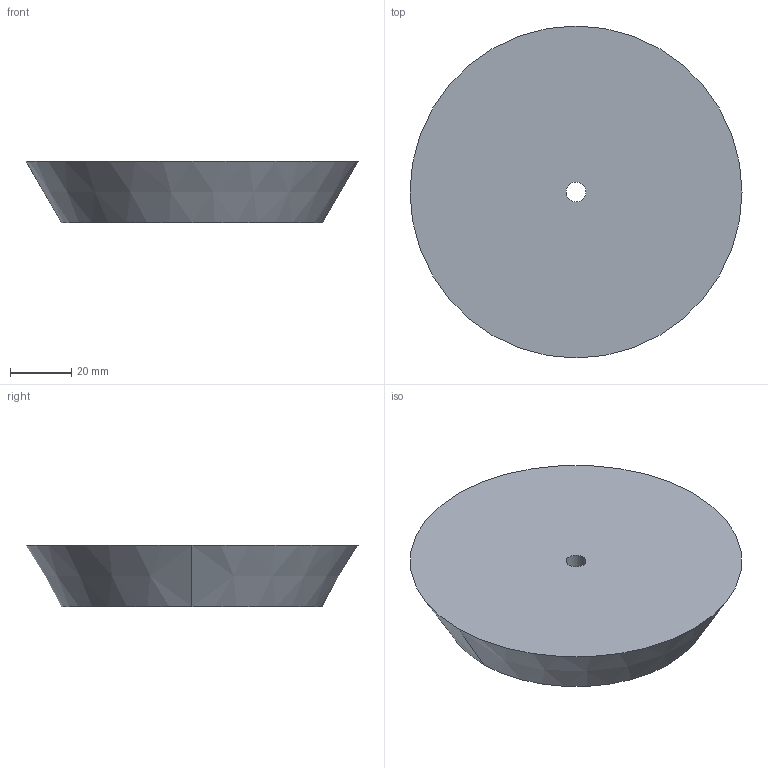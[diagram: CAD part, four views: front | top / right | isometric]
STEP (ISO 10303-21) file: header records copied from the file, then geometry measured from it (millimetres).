
FILE_DESCRIPTION(('CATIA V5 STEP Exchange'),'2;1');
FILE_NAME('C:\Users\andres.garcia\OneDrive - IQS\ASIGNATURAS\DAO\Controles\2223\c0\c1-BELLMUNT_Lucas-tapon.stp','2023-02-03T08:22:02+00:00',('none'),('none'),'CATIA Version 5-6 Release 2013 SP6','CATIA V5 STEP AP203','none');
FILE_SCHEMA(('CONFIG_CONTROL_DESIGN'));
Length unit declared in the file: millimetre
Products named in the file (1): c1-BELLMUNT_Lucas-tapon
Bounding box: 108 x 108 x 20 mm (x, y, z)
Volume: 146168.5 mm3; surface area: 22162.7 mm2
Topology: 1 solids, 1 shells, 6 faces, 12 edges, 8 vertices
Faces by surface type: cylinder 2, plane 2, cone 2
Entity records: 196 total; most frequent: CARTESIAN_POINT 26, ORIENTED_EDGE 24, DIRECTION 22, AXIS2_PLACEMENT_3D 14, EDGE_CURVE 12, CIRCLE 8, EDGE_LOOP 8, VERTEX_POINT 8
